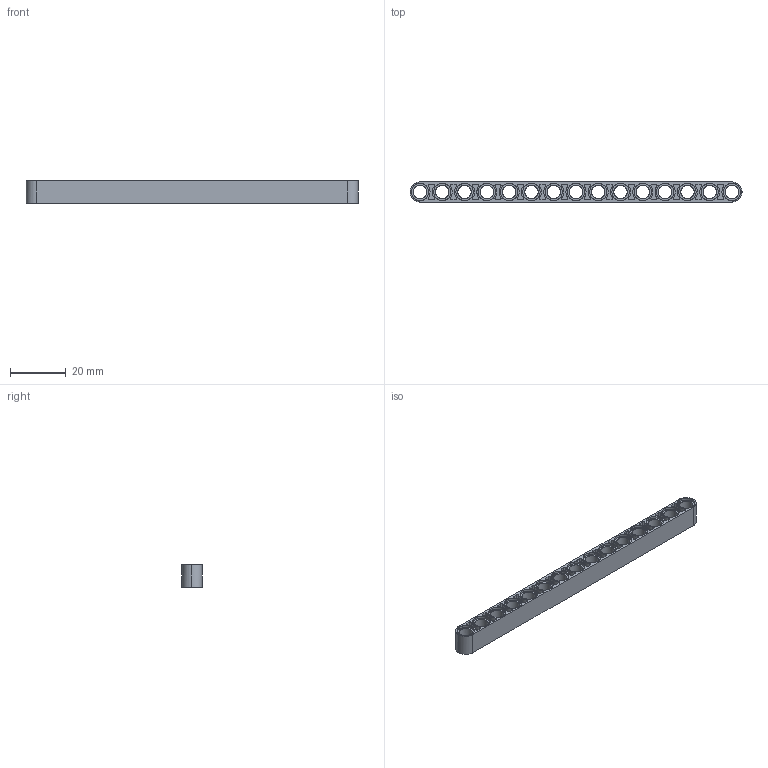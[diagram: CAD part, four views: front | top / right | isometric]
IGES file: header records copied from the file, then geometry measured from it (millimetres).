
Start section: C
Global section: file name: Black_4542573_AVV.iges; native system: By Siemens PLM Incorporated; preprocessor: XPlus GENERIC/IGES 26.1.183; author: Author; organization: Title; date: 20250721.234720; units: millimetre
Bounding box: 119.2 x 7.2 x 8 mm (x, y, z)
Surface area: 6374 mm2 (no closed solid volume)
Topology: 0 solids, 0 shells, 419 faces, 2334 edges, 2334 vertices
Faces by surface type: bspline 419
